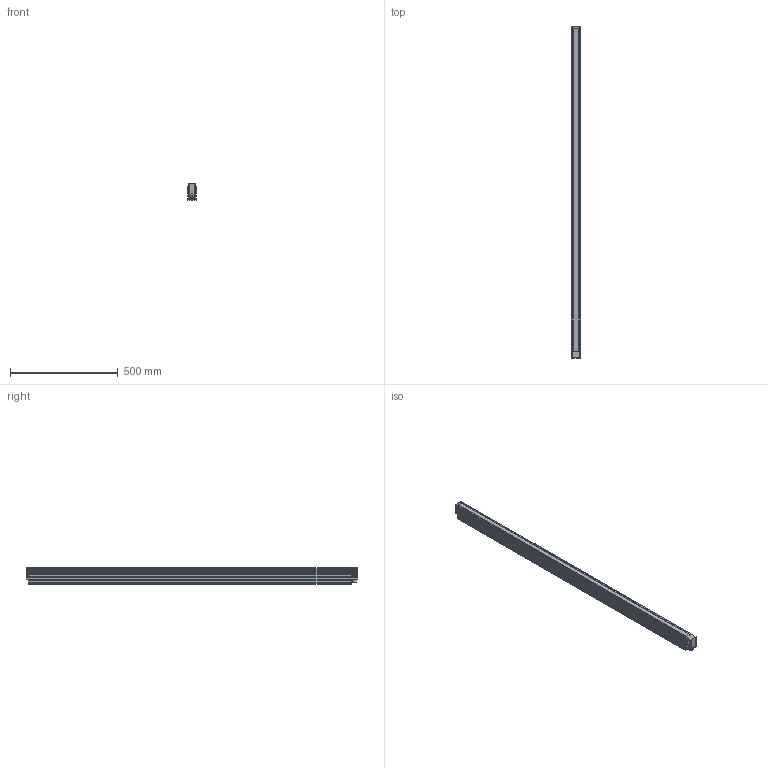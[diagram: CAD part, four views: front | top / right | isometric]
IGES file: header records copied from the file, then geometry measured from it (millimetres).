
Start section: SolidWorks IGES file using analytic representation for surfaces
Global section: file name: C:\Users\88691\Desktop\VST LIGHTING\VST LINEAR LIGHT 線燈\VLN 線光\VLN STEP圖檔用\VLN (L_D)-1500W _ Drawing _ L1268A (L12783A_L1299A)-A00101.IGS; native system: SolidWorks 2020; preprocessor: SolidWorks 2020; author: 88691; date: 240624.153108; units: millimetre
Bounding box: 40 x 1542 x 75 mm (x, y, z)
Surface area: 826770.1 mm2 (no closed solid volume)
Topology: 0 solids, 0 shells, 1158 faces, 12124 edges, 12123 vertices
Faces by surface type: bspline 734, revolution 424
